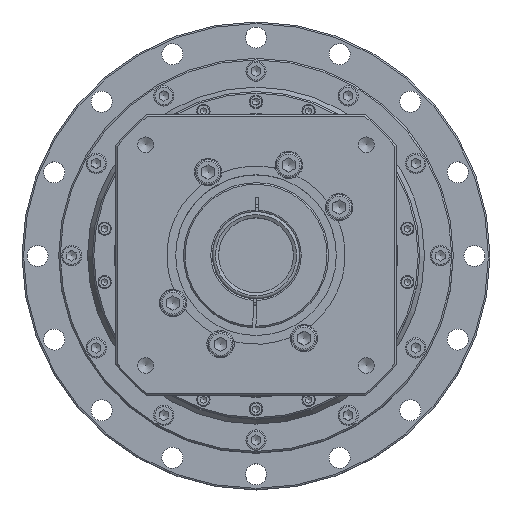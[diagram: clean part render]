
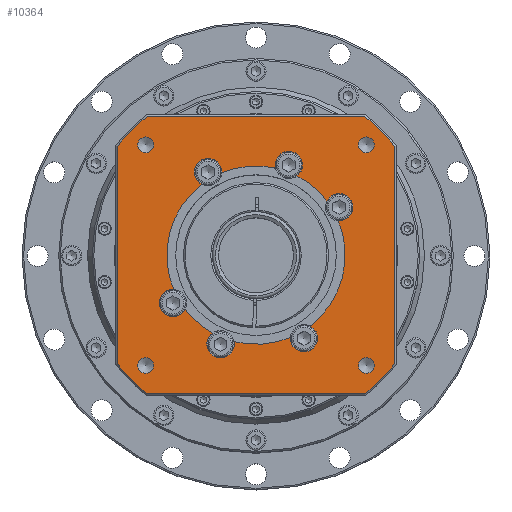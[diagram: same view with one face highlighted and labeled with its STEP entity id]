
A CAD part, top view. The second image highlights one B-rep face of the part: STEP entity #10364.
In plain terms, the highlighted planar face has unit normal (0, 0, 1).
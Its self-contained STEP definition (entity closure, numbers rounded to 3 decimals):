
#9166=CARTESIAN_POINT('',(75.764,70.711,396.5));
#9167=VERTEX_POINT('',#9166);
#9168=CARTESIAN_POINT('',(70.711,70.711,396.5));
#9169=DIRECTION('',(0.0,0.0,-1.0));
#9170=DIRECTION('',(1.0,0.0,0.0));
#9171=AXIS2_PLACEMENT_3D('',#9168,#9169,#9170);
#9172=CIRCLE('',#9171,5.053);
#9173=EDGE_CURVE('',#9167,#9167,#9172,.T.);
#9203=CARTESIAN_POINT('',(70.711,-75.764,396.5));
#9204=VERTEX_POINT('',#9203);
#9205=CARTESIAN_POINT('',(70.711,-70.711,396.5));
#9206=DIRECTION('',(0.0,0.0,-1.0));
#9207=DIRECTION('',(0.0,-1.0,0.0));
#9208=AXIS2_PLACEMENT_3D('',#9205,#9206,#9207);
#9209=CIRCLE('',#9208,5.053);
#9210=EDGE_CURVE('',#9204,#9204,#9209,.T.);
#9240=CARTESIAN_POINT('',(-75.764,-70.711,396.5));
#9241=VERTEX_POINT('',#9240);
#9242=CARTESIAN_POINT('',(-70.711,-70.711,396.5));
#9243=DIRECTION('',(0.0,0.0,-1.0));
#9244=DIRECTION('',(-1.0,0.0,0.0));
#9245=AXIS2_PLACEMENT_3D('',#9242,#9243,#9244);
#9246=CIRCLE('',#9245,5.053);
#9247=EDGE_CURVE('',#9241,#9241,#9246,.T.);
#9277=CARTESIAN_POINT('',(-70.711,75.764,396.5));
#9278=VERTEX_POINT('',#9277);
#9279=CARTESIAN_POINT('',(-70.711,70.711,396.5));
#9280=DIRECTION('',(0.0,0.0,-1.0));
#9281=DIRECTION('',(0.0,1.0,0.0));
#9282=AXIS2_PLACEMENT_3D('',#9279,#9280,#9281);
#9283=CIRCLE('',#9282,5.053);
#9284=EDGE_CURVE('',#9278,#9278,#9283,.T.);
#9314=CARTESIAN_POINT('',(22.016,-52.739,396.5));
#9315=VERTEX_POINT('',#9314);
#9333=CARTESIAN_POINT('',(-14.151,-55.37,396.5));
#9334=VERTEX_POINT('',#9333);
#9341=CARTESIAN_POINT('',(0.,0.,396.5));
#9342=DIRECTION('',(0.0,0.0,-1.0));
#9343=DIRECTION('',(-1.0,0.0,0.0));
#9344=AXIS2_PLACEMENT_3D('',#9341,#9342,#9343);
#9345=CIRCLE('',#9344,57.15);
#9346=EDGE_CURVE('',#9315,#9334,#9345,.T.);
#9358=CARTESIAN_POINT('',(34.666,-45.436,396.5));
#9359=VERTEX_POINT('',#9358);
#9366=CARTESIAN_POINT('',(52.739,22.016,396.5));
#9367=VERTEX_POINT('',#9366);
#9368=CARTESIAN_POINT('',(0.,0.,396.5));
#9369=DIRECTION('',(0.0,0.0,-1.0));
#9370=DIRECTION('',(-1.0,0.0,0.0));
#9371=AXIS2_PLACEMENT_3D('',#9368,#9369,#9370);
#9372=CIRCLE('',#9371,57.15);
#9373=EDGE_CURVE('',#9367,#9359,#9372,.T.);
#9398=CARTESIAN_POINT('',(-27.725,-49.974,396.5));
#9399=VERTEX_POINT('',#9398);
#9417=CARTESIAN_POINT('',(-45.436,-34.666,396.5));
#9418=VERTEX_POINT('',#9417);
#9425=CARTESIAN_POINT('',(0.,0.,396.5));
#9426=DIRECTION('',(0.0,0.0,-1.0));
#9427=DIRECTION('',(-1.0,0.0,0.0));
#9428=AXIS2_PLACEMENT_3D('',#9425,#9426,#9427);
#9429=CIRCLE('',#9428,57.15);
#9430=EDGE_CURVE('',#9399,#9418,#9429,.T.);
#9440=CARTESIAN_POINT('',(-52.739,-22.016,396.5));
#9441=VERTEX_POINT('',#9440);
#9459=CARTESIAN_POINT('',(-34.666,45.436,396.5));
#9460=VERTEX_POINT('',#9459);
#9467=CARTESIAN_POINT('',(0.,0.,396.5));
#9468=DIRECTION('',(0.0,0.0,-1.0));
#9469=DIRECTION('',(-1.0,0.0,0.0));
#9470=AXIS2_PLACEMENT_3D('',#9467,#9468,#9469);
#9471=CIRCLE('',#9470,57.15);
#9472=EDGE_CURVE('',#9441,#9460,#9471,.T.);
#9484=CARTESIAN_POINT('',(45.436,34.666,396.5));
#9485=VERTEX_POINT('',#9484);
#9492=CARTESIAN_POINT('',(26.249,50.765,396.5));
#9493=VERTEX_POINT('',#9492);
#9494=CARTESIAN_POINT('',(0.,0.,396.5));
#9495=DIRECTION('',(0.0,0.0,-1.0));
#9496=DIRECTION('',(-1.0,0.0,0.0));
#9497=AXIS2_PLACEMENT_3D('',#9494,#9495,#9496);
#9498=CIRCLE('',#9497,57.15);
#9499=EDGE_CURVE('',#9493,#9485,#9498,.T.);
#9526=CARTESIAN_POINT('',(12.523,55.761,396.5));
#9527=VERTEX_POINT('',#9526);
#9534=CARTESIAN_POINT('',(-22.016,52.739,396.5));
#9535=VERTEX_POINT('',#9534);
#9536=CARTESIAN_POINT('',(0.,0.,396.5));
#9537=DIRECTION('',(0.0,0.0,-1.0));
#9538=DIRECTION('',(-1.0,0.0,0.0));
#9539=AXIS2_PLACEMENT_3D('',#9536,#9537,#9538);
#9540=CIRCLE('',#9539,57.15);
#9541=EDGE_CURVE('',#9535,#9527,#9540,.T.);
#9657=CARTESIAN_POINT('',(-30.75,53.261,396.5));
#9658=DIRECTION('',(0.0,0.0,-1.0));
#9659=DIRECTION('',(1.0,0.0,0.0));
#9660=AXIS2_PLACEMENT_3D('',#9657,#9658,#9659);
#9661=CIRCLE('',#9660,8.75);
#9662=EDGE_CURVE('',#9460,#9535,#9661,.T.);
#9698=CARTESIAN_POINT('',(21.034,57.791,396.5));
#9699=DIRECTION('',(0.0,0.0,-1.0));
#9700=DIRECTION('',(1.0,0.0,0.0));
#9701=AXIS2_PLACEMENT_3D('',#9698,#9699,#9700);
#9702=CIRCLE('',#9701,8.75);
#9703=EDGE_CURVE('',#9527,#9493,#9702,.T.);
#9718=CARTESIAN_POINT('',(53.261,30.75,396.5));
#9719=DIRECTION('',(0.0,0.0,-1.0));
#9720=DIRECTION('',(1.0,0.0,0.0));
#9721=AXIS2_PLACEMENT_3D('',#9718,#9719,#9720);
#9722=CIRCLE('',#9721,8.75);
#9723=EDGE_CURVE('',#9485,#9367,#9722,.T.);
#9788=CARTESIAN_POINT('',(-53.261,-30.75,396.5));
#9789=DIRECTION('',(0.0,0.0,-1.0));
#9790=DIRECTION('',(1.0,0.0,0.0));
#9791=AXIS2_PLACEMENT_3D('',#9788,#9789,#9790);
#9792=CIRCLE('',#9791,8.75);
#9793=EDGE_CURVE('',#9418,#9441,#9792,.T.);
#9829=CARTESIAN_POINT('',(-22.718,-57.15,396.5));
#9830=DIRECTION('',(0.0,0.0,-1.0));
#9831=DIRECTION('',(1.0,0.0,0.0));
#9832=AXIS2_PLACEMENT_3D('',#9829,#9830,#9831);
#9833=CIRCLE('',#9832,8.75);
#9834=EDGE_CURVE('',#9334,#9399,#9833,.T.);
#9878=CARTESIAN_POINT('',(30.75,-53.261,396.5));
#9879=DIRECTION('',(0.0,0.0,-1.0));
#9880=DIRECTION('',(1.0,0.0,0.0));
#9881=AXIS2_PLACEMENT_3D('',#9878,#9879,#9880);
#9882=CIRCLE('',#9881,8.75);
#9883=EDGE_CURVE('',#9359,#9315,#9882,.T.);
#10263=CARTESIAN_POINT('',(0.,0.,396.5));
#10264=DIRECTION('',(0.0,0.0,1.0));
#10265=DIRECTION('',(1.0,0.0,0.0));
#10266=AXIS2_PLACEMENT_3D('',#10263,#10264,#10265);
#10267=PLANE('',#10266);
#10268=CARTESIAN_POINT('',(-89.,-69.628,396.5));
#10269=VERTEX_POINT('',#10268);
#10270=CARTESIAN_POINT('',(-89.,69.628,396.5));
#10271=VERTEX_POINT('',#10270);
#10272=CARTESIAN_POINT('',(-89.,-69.628,396.5));
#10273=DIRECTION('',(0.0,1.0,0.0));
#10274=VECTOR('',#10273,139.255);
#10275=LINE('',#10272,#10274);
#10276=EDGE_CURVE('',#10269,#10271,#10275,.T.);
#10277=ORIENTED_EDGE('',*,*,#10276,.F.);
#10278=CARTESIAN_POINT('',(-69.628,-89.,396.5));
#10279=VERTEX_POINT('',#10278);
#10280=CARTESIAN_POINT('',(0.,0.,396.5));
#10281=DIRECTION('',(0.0,0.0,-1.0));
#10282=DIRECTION('',(-1.0,0.0,0.0));
#10283=AXIS2_PLACEMENT_3D('',#10280,#10281,#10282);
#10284=CIRCLE('',#10283,113.0);
#10285=EDGE_CURVE('',#10279,#10269,#10284,.T.);
#10286=ORIENTED_EDGE('',*,*,#10285,.F.);
#10287=CARTESIAN_POINT('',(69.628,-89.,396.5));
#10288=VERTEX_POINT('',#10287);
#10289=CARTESIAN_POINT('',(69.628,-89.,396.5));
#10290=DIRECTION('',(-1.0,0.0,0.0));
#10291=VECTOR('',#10290,139.255);
#10292=LINE('',#10289,#10291);
#10293=EDGE_CURVE('',#10288,#10279,#10292,.T.);
#10294=ORIENTED_EDGE('',*,*,#10293,.F.);
#10295=CARTESIAN_POINT('',(89.0,-69.628,396.5));
#10296=VERTEX_POINT('',#10295);
#10297=CARTESIAN_POINT('',(0.,0.,396.5));
#10298=DIRECTION('',(0.0,0.0,-1.0));
#10299=DIRECTION('',(1.0,0.0,0.0));
#10300=AXIS2_PLACEMENT_3D('',#10297,#10298,#10299);
#10301=CIRCLE('',#10300,113.);
#10302=EDGE_CURVE('',#10296,#10288,#10301,.T.);
#10303=ORIENTED_EDGE('',*,*,#10302,.F.);
#10304=CARTESIAN_POINT('',(89.,69.628,396.5));
#10305=VERTEX_POINT('',#10304);
#10306=CARTESIAN_POINT('',(89.,69.628,396.5));
#10307=DIRECTION('',(0.0,-1.0,0.0));
#10308=VECTOR('',#10307,139.255);
#10309=LINE('',#10306,#10308);
#10310=EDGE_CURVE('',#10305,#10296,#10309,.T.);
#10311=ORIENTED_EDGE('',*,*,#10310,.F.);
#10312=CARTESIAN_POINT('',(69.628,89.,396.5));
#10313=VERTEX_POINT('',#10312);
#10314=CARTESIAN_POINT('',(0.,0.,396.5));
#10315=DIRECTION('',(0.0,0.0,-1.0));
#10316=DIRECTION('',(1.0,0.0,0.0));
#10317=AXIS2_PLACEMENT_3D('',#10314,#10315,#10316);
#10318=CIRCLE('',#10317,113.);
#10319=EDGE_CURVE('',#10313,#10305,#10318,.T.);
#10320=ORIENTED_EDGE('',*,*,#10319,.F.);
#10321=CARTESIAN_POINT('',(-69.628,89.,396.5));
#10322=VERTEX_POINT('',#10321);
#10323=CARTESIAN_POINT('',(-69.628,89.,396.5));
#10324=DIRECTION('',(1.0,0.0,0.0));
#10325=VECTOR('',#10324,139.255);
#10326=LINE('',#10323,#10325);
#10327=EDGE_CURVE('',#10322,#10313,#10326,.T.);
#10328=ORIENTED_EDGE('',*,*,#10327,.F.);
#10329=CARTESIAN_POINT('',(0.,0.,396.5));
#10330=DIRECTION('',(0.0,0.0,-1.0));
#10331=DIRECTION('',(-1.0,0.0,0.0));
#10332=AXIS2_PLACEMENT_3D('',#10329,#10330,#10331);
#10333=CIRCLE('',#10332,113.0);
#10334=EDGE_CURVE('',#10271,#10322,#10333,.T.);
#10335=ORIENTED_EDGE('',*,*,#10334,.F.);
#10336=EDGE_LOOP('',(#10277,#10286,#10294,#10303,#10311,#10320,#10328,#10335));
#10337=FACE_OUTER_BOUND('',#10336,.T.);
#10338=ORIENTED_EDGE('',*,*,#9173,.T.);
#10339=EDGE_LOOP('',(#10338));
#10340=FACE_BOUND('',#10339,.T.);
#10341=ORIENTED_EDGE('',*,*,#9210,.T.);
#10342=EDGE_LOOP('',(#10341));
#10343=FACE_BOUND('',#10342,.T.);
#10344=ORIENTED_EDGE('',*,*,#9247,.T.);
#10345=EDGE_LOOP('',(#10344));
#10346=FACE_BOUND('',#10345,.T.);
#10347=ORIENTED_EDGE('',*,*,#9284,.T.);
#10348=EDGE_LOOP('',(#10347));
#10349=FACE_BOUND('',#10348,.T.);
#10350=ORIENTED_EDGE('',*,*,#9883,.T.);
#10351=ORIENTED_EDGE('',*,*,#9346,.T.);
#10352=ORIENTED_EDGE('',*,*,#9834,.T.);
#10353=ORIENTED_EDGE('',*,*,#9430,.T.);
#10354=ORIENTED_EDGE('',*,*,#9793,.T.);
#10355=ORIENTED_EDGE('',*,*,#9472,.T.);
#10356=ORIENTED_EDGE('',*,*,#9662,.T.);
#10357=ORIENTED_EDGE('',*,*,#9541,.T.);
#10358=ORIENTED_EDGE('',*,*,#9703,.T.);
#10359=ORIENTED_EDGE('',*,*,#9499,.T.);
#10360=ORIENTED_EDGE('',*,*,#9723,.T.);
#10361=ORIENTED_EDGE('',*,*,#9373,.T.);
#10362=EDGE_LOOP('',(#10350,#10351,#10352,#10353,#10354,#10355,#10356,#10357,#10358,#10359,#10360,#10361));
#10363=FACE_BOUND('',#10362,.T.);
#10364=ADVANCED_FACE('',(#10337,#10340,#10343,#10346,#10349,#10363),#10267,.T.);
